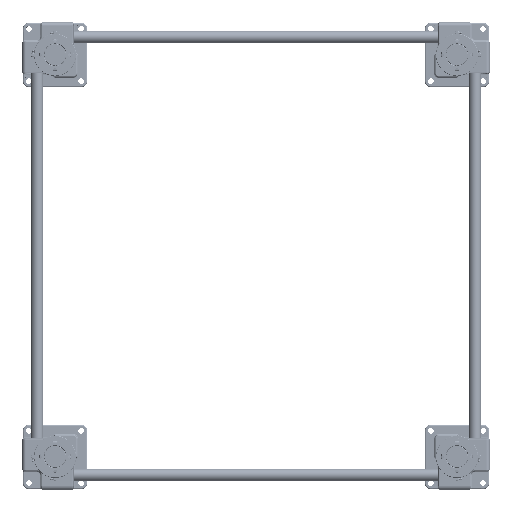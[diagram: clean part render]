
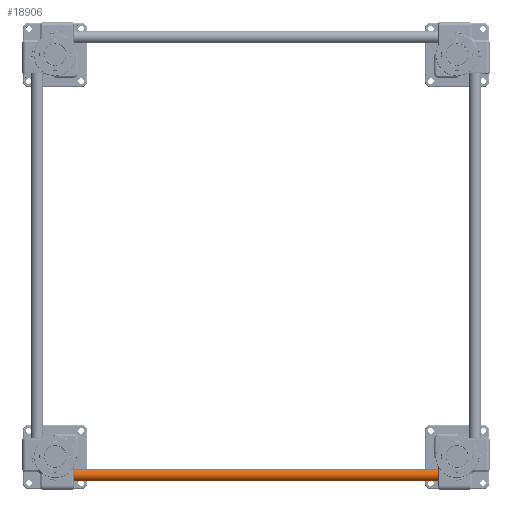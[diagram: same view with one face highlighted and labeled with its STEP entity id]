
A CAD part, top view. The second image highlights one B-rep face of the part: STEP entity #18906.
In plain terms, the highlighted cylindrical face has radius 15 mm (diameter 30 mm), a full revolution.
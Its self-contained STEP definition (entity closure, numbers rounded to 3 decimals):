
#18906=ADVANCED_FACE('',(#43383,#43384),#43385,.T.);
#43383=FACE_OUTER_BOUND('',#71683,.T.);
#43384=FACE_OUTER_BOUND('',#71684,.T.);
#43385=CYLINDRICAL_SURFACE('',#71685,15.0);
#71683=EDGE_LOOP('',(#170712));
#71684=EDGE_LOOP('',(#170713));
#71685=AXIS2_PLACEMENT_3D('',#170714,#170715,#170716);
#170712=ORIENTED_EDGE('',*,*,#201905,.T.);
#170713=ORIENTED_EDGE('',*,*,#201902,.T.);
#170714=CARTESIAN_POINT('',(0.0,0.0,1054.0));
#170715=DIRECTION('',(0.0,0.0,-1.0));
#170716=DIRECTION('',(-1.0,0.0,0.0));
#201902=EDGE_CURVE('',#253790,#253790,#253791,.F.);
#201905=EDGE_CURVE('',#253796,#253796,#253797,.T.);
#253790=VERTEX_POINT('',#344716);
#253791=CIRCLE('',#344717,15.0);
#253796=VERTEX_POINT('',#344722);
#253797=CIRCLE('',#344723,15.0);
#344716=CARTESIAN_POINT('',(15.0,0.0,1053.0));
#344717=AXIS2_PLACEMENT_3D('',#381858,#381859,#381860);
#344722=CARTESIAN_POINT('',(15.0,0.0,1.));
#344723=AXIS2_PLACEMENT_3D('',#381867,#381868,#381869);
#381858=CARTESIAN_POINT('',(0.0,0.0,1053.0));
#381859=DIRECTION('',(0.0,0.0,1.0));
#381860=DIRECTION('',(1.0,0.0,0.0));
#381867=CARTESIAN_POINT('',(0.0,0.0,1.));
#381868=DIRECTION('',(0.0,0.0,1.0));
#381869=DIRECTION('',(1.0,0.0,0.0));
